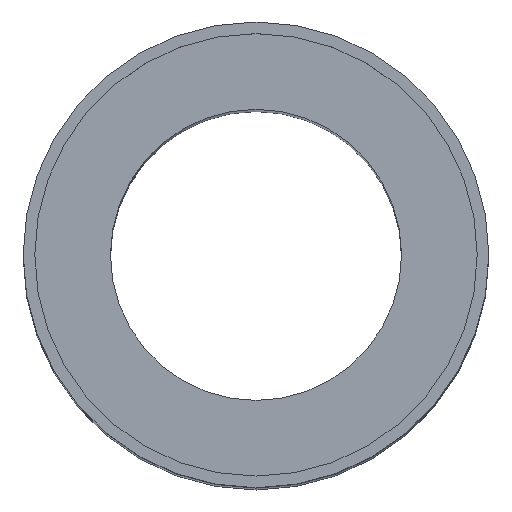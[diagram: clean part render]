
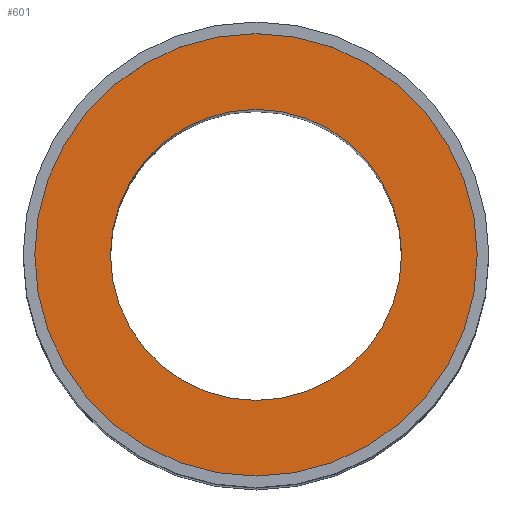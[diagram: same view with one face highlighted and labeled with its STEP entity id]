
A CAD part, top view. The second image highlights one B-rep face of the part: STEP entity #601.
In plain terms, the highlighted planar face has unit normal (0, 0, 1).
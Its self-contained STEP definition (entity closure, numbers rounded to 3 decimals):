
#135=CARTESIAN_POINT('',(-19.,0.,111.));
#136=VERTEX_POINT('',#135);
#152=CARTESIAN_POINT('',(19.0,0.,111.));
#153=VERTEX_POINT('',#152);
#160=CARTESIAN_POINT('',(0.0,0.0,111.));
#161=DIRECTION('',(0.0,0.0,-1.0));
#162=DIRECTION('',(-1.0,0.0,0.0));
#163=AXIS2_PLACEMENT_3D('',#160,#161,#162);
#164=CIRCLE('',#163,19.);
#165=EDGE_CURVE('',#153,#136,#164,.T.);
#175=CARTESIAN_POINT('',(-12.5,0.,111.));
#176=VERTEX_POINT('',#175);
#185=CARTESIAN_POINT('',(12.5,0.,111.));
#186=VERTEX_POINT('',#185);
#187=CARTESIAN_POINT('',(0.0,0.0,111.));
#188=DIRECTION('',(0.0,0.0,-1.0));
#189=DIRECTION('',(-1.0,0.0,0.0));
#190=AXIS2_PLACEMENT_3D('',#187,#188,#189);
#191=CIRCLE('',#190,12.5);
#192=EDGE_CURVE('',#186,#176,#191,.T.);
#552=CARTESIAN_POINT('',(0.0,0.0,111.));
#553=DIRECTION('',(0.0,0.0,-1.0));
#554=DIRECTION('',(-1.0,0.0,0.0));
#555=AXIS2_PLACEMENT_3D('',#552,#553,#554);
#556=CIRCLE('',#555,12.5);
#557=EDGE_CURVE('',#176,#186,#556,.T.);
#582=CARTESIAN_POINT('',(0.0,0.0,111.));
#583=DIRECTION('',(0.0,0.0,-1.0));
#584=DIRECTION('',(-1.0,0.0,0.0));
#585=AXIS2_PLACEMENT_3D('',#582,#583,#584);
#586=PLANE('',#585);
#587=ORIENTED_EDGE('',*,*,#165,.F.);
#588=CARTESIAN_POINT('',(0.0,0.0,111.));
#589=DIRECTION('',(0.0,0.0,-1.0));
#590=DIRECTION('',(-1.0,0.0,0.0));
#591=AXIS2_PLACEMENT_3D('',#588,#589,#590);
#592=CIRCLE('',#591,19.);
#593=EDGE_CURVE('',#136,#153,#592,.T.);
#594=ORIENTED_EDGE('',*,*,#593,.F.);
#595=EDGE_LOOP('',(#587,#594));
#596=FACE_OUTER_BOUND('',#595,.T.);
#597=ORIENTED_EDGE('',*,*,#192,.T.);
#598=ORIENTED_EDGE('',*,*,#557,.T.);
#599=EDGE_LOOP('',(#597,#598));
#600=FACE_BOUND('',#599,.T.);
#601=ADVANCED_FACE('',(#596,#600),#586,.F.);
